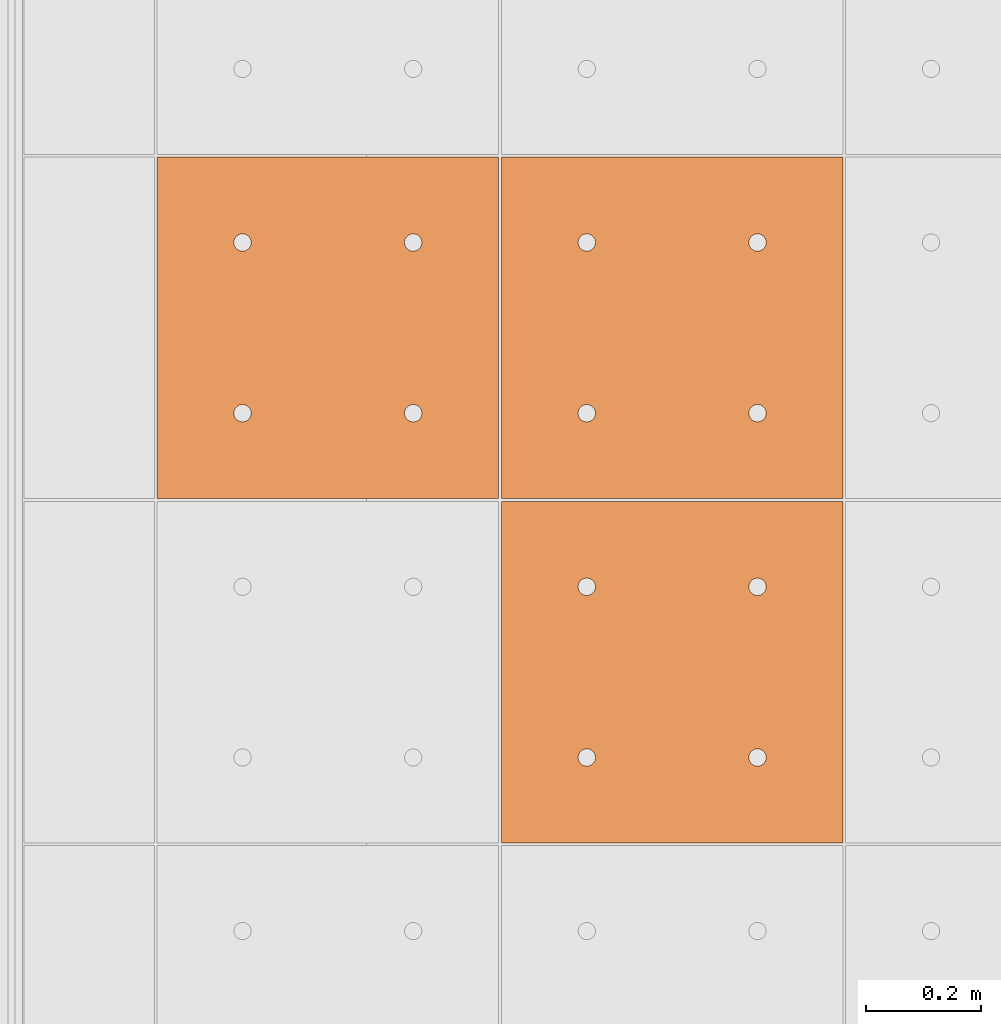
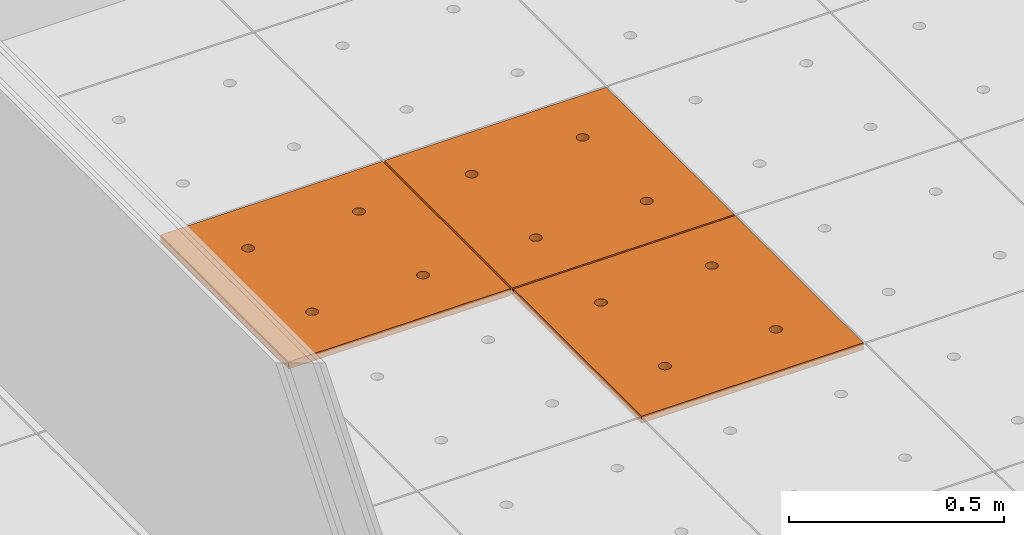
# One storey, part 273 of 338: 3 proxies, 1 element without a shape of its own.
"""IFC2X3 building model written with IfcOpenShell, lengths in millimetres."""

import ifcopenshell
import ifcopenshell.guid

model = None  # the IFC model being written
_history = None  # IfcOwnerHistory: only IFC2X3 demands one
_inside = {}  # id of a spatial element -> (the spatial element, [elements in it])
_under = {}  # id of a project, library or spatial element -> (it, [spatial elements below it])
_declared = {}  # id of a project -> (the project, [libraries it declares])
_typed = {}  # id of a type object -> (the type object, [elements of that type])
_made_of = {}  # id of a material, layer set ... -> (it, [elements and type objects made of it])


def new_model(schema):
    """Start an empty IFC model of exactly this schema.

    Asked for "IFC4X3", IfcOpenShell would pick the latest addendum, in which some entities
    have other attributes; the version numbers below select the first issue.
    IFC2X3 requires an IfcOwnerHistory on every rooted entity: one is made here for all.
    """
    global model, _history
    if schema == "IFC4X3":
        model = ifcopenshell.file(schema_version=(4, 3, 0, 0))
    else:
        model = ifcopenshell.file(schema=schema)
    _inside.clear()
    _under.clear()
    _declared.clear()
    _typed.clear()
    _made_of.clear()
    _history = None
    if model.schema == "IFC2X3":
        org = make("IfcOrganization", Name="unknown")
        user = make(
            "IfcPersonAndOrganization",
            ThePerson=make("IfcPerson", FamilyName="unknown"),
            TheOrganization=org,
        )
        app = make(
            "IfcApplication",
            ApplicationDeveloper=org,
            Version="unknown",
            ApplicationFullName="unknown",
            ApplicationIdentifier="unknown",
        )
        _history = make(
            "IfcOwnerHistory",
            OwningUser=user,
            OwningApplication=app,
            ChangeAction="ADDED",
            CreationDate=0,
        )
    return model


def make(cls, **values):
    """One entity of the class cls with the attributes given. An attribute that is None is left unset."""
    return model.create_entity(
        cls, **{name: value for name, value in values.items() if value is not None}
    )


def entity(cls, *values):
    """Any entity or typed value of the class cls, its attributes in the order of the schema. None: left unset."""
    e = model.create_entity(cls)
    for i, value in enumerate(values):
        if value is not None:
            e[i] = value
    return e


def rooted(cls, **values):
    """An entity with a GlobalId (a new one), such as an element, a storey or a relation."""
    return make(cls, GlobalId=ifcopenshell.guid.new(), OwnerHistory=_history, **values)


def si_unit(unit_type, name, prefix=None):
    """IfcSIUnit, for example si_unit("LENGTHUNIT", "METRE", prefix="MILLI")."""
    return make("IfcSIUnit", UnitType=unit_type, Prefix=prefix, Name=name)


def converted_unit(unit_type, name, factor, base, dimensions=None, offset=None):
    """IfcConversionBasedUnit, such as the inch: factor (a typed value) times the base unit."""
    return make(
        "IfcConversionBasedUnit"
        if offset is None
        else "IfcConversionBasedUnitWithOffset",
        ConversionOffset=offset,
        Dimensions=None
        if dimensions is None
        else entity("IfcDimensionalExponents", *dimensions),
        UnitType=unit_type,
        Name=name,
        ConversionFactor=make(
            "IfcMeasureWithUnit", ValueComponent=factor, UnitComponent=base
        ),
    )


def derived_unit(unit_type, elements):
    """IfcDerivedUnit: a product of units, each with its exponent."""
    return make(
        "IfcDerivedUnit",
        Elements=[
            make("IfcDerivedUnitElement", Unit=unit, Exponent=power)
            for unit, power in elements
        ],
        UnitType=unit_type,
    )


def money_unit(currency):
    """IfcMonetaryUnit."""
    return make("IfcMonetaryUnit", Currency=currency)


def assignment(units):
    """IfcUnitAssignment: the units of a project."""
    return None if units is None else make("IfcUnitAssignment", Units=units)


def point(xyz):
    """IfcCartesianPoint."""
    return None if xyz is None else make("IfcCartesianPoint", Coordinates=xyz)


def direction(xyz):
    """IfcDirection."""
    return None if xyz is None else make("IfcDirection", DirectionRatios=xyz)


def frame(location, z_axis=None, x_axis=None):
    """IfcAxis2Placement3D, a coordinate frame: its origin and axes. An axis left out is left unset."""
    return make(
        "IfcAxis2Placement3D",
        Location=point(location),
        Axis=direction(z_axis),
        RefDirection=direction(x_axis),
    )


def origin_with_axes():
    """The frame at (0, 0, 0) with the z axis (0, 0, 1) and the x axis (1, 0, 0) written out."""
    return frame((0.0, 0.0, 0.0), z_axis=(0.0, 0.0, 1.0), x_axis=(1.0, 0.0, 0.0))


def place(relative_to, where):
    """IfcLocalPlacement: puts the frame where relative to a parent placement (None: the world)."""
    return make(
        "IfcLocalPlacement", PlacementRelTo=relative_to, RelativePlacement=where
    )


def context(
    kind, dimensions, precision=None, world=None, true_north=None, identifier=None
):
    """IfcGeometricRepresentationContext, for example the 3D "Model" context."""
    return make(
        "IfcGeometricRepresentationContext",
        ContextIdentifier=identifier,
        ContextType=kind,
        CoordinateSpaceDimension=dimensions,
        Precision=precision,
        WorldCoordinateSystem=world,
        TrueNorth=true_north,
    )


def subcontext(parent, identifier, kind, view, scale=None):
    """IfcGeometricRepresentationSubContext, for example "Body" below "Model"."""
    return make(
        "IfcGeometricRepresentationSubContext",
        ContextIdentifier=identifier,
        ContextType=kind,
        ParentContext=parent,
        TargetScale=scale,
        TargetView=view,
    )


def project(units=None, contexts=None):
    """IfcProject with its units and contexts."""
    return rooted(
        "IfcProject",
        Name="project",
        RepresentationContexts=contexts,
        UnitsInContext=assignment(units),
    )


def spatial(cls, under=None, at=None, **own):
    """A site, building, storey or space (cls), placed at a placement, below another one or the project."""
    s = rooted(cls, ObjectPlacement=at, **own)
    if under is not None:
        _under.setdefault(under.id(), (under, []))[1].append(s)
    return s


def faces_of(points, faces, orient=None, outer=None):
    """IfcFace entities. A face is a list of loops; a loop is a list of indices into points, from 0.

    orient and outer hold one flag for each loop. By default every Orientation is true, the
    first loop of a face is its IfcFaceOuterBound and the others are IfcFaceBound.
    """
    made = []
    for i, loops in enumerate(faces):
        bounds = []
        for j, loop in enumerate(loops):
            is_outer = j == 0 if outer is None else outer[i][j]
            bounds.append(
                make(
                    "IfcFaceOuterBound" if is_outer else "IfcFaceBound",
                    Bound=make("IfcPolyLoop", Polygon=[points[k] for k in loop]),
                    Orientation=True if orient is None else orient[i][j],
                )
            )
        made.append(make("IfcFace", Bounds=bounds))
    return made


def faceted_brep(points, faces, orient=None, outer=None, voids=None):
    """IfcFacetedBrep: a solid bounded by flat faces; with voids (closed shells), ...WithVoids."""
    shared = [point(p) for p in points]
    hull = make("IfcClosedShell", CfsFaces=faces_of(shared, faces, orient, outer))
    if voids is None:
        return make("IfcFacetedBrep", Outer=hull)
    return make(
        "IfcFacetedBrepWithVoids",
        Outer=hull,
        Voids=[
            make(cls, CfsFaces=faces_of(shared, fs, o, b)) for cls, fs, o, b in voids
        ],
    )


def shape(context_of_items, identifier, shape_type, items):
    """IfcShapeRepresentation: the items that make up one representation, for example the "Body"."""
    return make(
        "IfcShapeRepresentation",
        ContextOfItems=context_of_items,
        RepresentationIdentifier=identifier,
        RepresentationType=shape_type,
        Items=items,
    )


def source(mapping_origin, context_of_items, identifier, shape_type, items):
    """IfcRepresentationMap: a shape defined once, which mapped items show again and again."""
    return make(
        "IfcRepresentationMap",
        MappingOrigin=mapping_origin,
        MappedRepresentation=shape(context_of_items, identifier, shape_type, items),
    )


def transform(
    local_origin,
    x_axis=None,
    y_axis=None,
    z_axis=None,
    scale=None,
    scale2=None,
    scale3=None,
    uniform=True,
):
    """IfcCartesianTransformationOperator3D, or its non-uniform kind. x_axis, y_axis, z_axis: its Axis1, 2, 3."""
    if uniform:
        return make(
            "IfcCartesianTransformationOperator3D",
            Axis1=direction(x_axis),
            Axis2=direction(y_axis),
            LocalOrigin=point(local_origin),
            Scale=scale,
            Axis3=direction(z_axis),
        )
    return make(
        "IfcCartesianTransformationOperator3DnonUniform",
        Axis1=direction(x_axis),
        Axis2=direction(y_axis),
        LocalOrigin=point(local_origin),
        Scale=scale,
        Axis3=direction(z_axis),
        Scale2=scale2,
        Scale3=scale3,
    )


def mapped(mapping_source, mapping_target):
    """IfcMappedItem: shows the shape of a source again, moved by a transform."""
    return make(
        "IfcMappedItem", MappingSource=mapping_source, MappingTarget=mapping_target
    )


def material(Name=None, Category=None):
    """IfcMaterial."""
    return make("IfcMaterial", Name=Name, Category=Category)


def made_of(thing, what):
    """Note that an element or type object is made of a material, layer set ...; save() writes the relation."""
    if what is not None:
        _made_of.setdefault(what.id(), (what, []))[1].append(thing)
    return thing


def type_object(cls, material=None, **own):
    """A type object (cls), such as IfcWallType, which elements share."""
    return made_of(rooted(cls, **own), material)


def type_shapes(of_type, sources):
    """Give a type object the sources (RepresentationMaps) that its elements show as mapped items."""
    of_type.RepresentationMaps = sources


def element(
    cls,
    number,
    at=None,
    inside=None,
    cuts=None,
    type_object=None,
    material=None,
    context=None,
    identifier="Body",
    shape_type=None,
    held_by="IfcProductDefinitionShape",
    body=None,
    shapes=None,
    **own,
):
    """One element of the class cls, such as IfcWall. Its Tag is "e" and its number.

    at: its placement. inside: the storey or other place that contains it. cuts: it is an
    opening in that element (IfcRelVoidsElement). A single representation is given by context,
    identifier, shape_type and body (its items); several are given by shapes. held_by: the class
    of the entity that holds the representations. save() writes the other relations.
    """
    e = rooted(cls, Tag="e%d" % number, ObjectPlacement=at, **own)
    if body is not None:
        shapes = [shape(context, identifier, shape_type, body)]
    if shapes is not None:
        e.Representation = make(held_by, Representations=shapes)
    if inside is not None:
        _inside.setdefault(inside.id(), (inside, []))[1].append(e)
    if cuts is not None:
        rooted(
            "IfcRelVoidsElement", RelatingBuildingElement=cuts, RelatedOpeningElement=e
        )
    if type_object is not None:
        _typed.setdefault(type_object.id(), (type_object, []))[1].append(e)
    return made_of(e, material)


def aggregate(whole, parts):
    """IfcRelAggregates: a whole, such as a stair, and the parts it consists of."""
    return rooted("IfcRelAggregates", RelatingObject=whole, RelatedObjects=parts)


def save(model, path):
    """Write the relations noted so far, then the file.

    IfcRelAggregates (storeys below a building ...), IfcRelContainedInSpatialStructure (elements
    in a storey), IfcRelDefinesByType, IfcRelAssociatesMaterial and IfcRelDeclares: one each for
    every whole, place, type object, material and project.
    """
    for whole, parts in _under.values():
        aggregate(whole, parts)
    for where, things in _inside.values():
        rooted(
            "IfcRelContainedInSpatialStructure",
            RelatedElements=things,
            RelatingStructure=where,
        )
    for kind, things in _typed.values():
        rooted("IfcRelDefinesByType", RelatedObjects=things, RelatingType=kind)
    for what, things in _made_of.values():
        rooted("IfcRelAssociatesMaterial", RelatedObjects=things, RelatingMaterial=what)
    for by, libraries in _declared.values():
        rooted("IfcRelDeclares", RelatingContext=by, RelatedDefinitions=libraries)
    model.write(path)


model = new_model("IFC2X3")

# Units and contexts
model_context = context("Model", 3, precision=0.01, world=origin_with_axes(), true_north=direction((0.0, 1.0)))
plan_context = context("Plan", 3, precision=0.01, world=origin_with_axes(), true_north=direction((0.0, 1.0)))
body_context = subcontext(model_context, "Body", "Model", "MODEL_VIEW")
ifc_project = project(units=[si_unit("LENGTHUNIT", "METRE", prefix="MILLI"), si_unit("AREAUNIT", "SQUARE_METRE"), si_unit("VOLUMEUNIT", "CUBIC_METRE"), converted_unit("PLANEANGLEUNIT", "DEGREE", entity("IfcPlaneAngleMeasure", 0.0174532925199), si_unit("PLANEANGLEUNIT", "RADIAN"), dimensions=[0, 0, 0, 0, 0, 0, 0]), money_unit("EUR"), converted_unit("TIMEUNIT", "Year", entity("IfcTimeMeasure", 31556926.0), si_unit("TIMEUNIT", "SECOND"), dimensions=[0, 0, 1, 0, 0, 0, 0]), si_unit("MASSUNIT", "GRAM", prefix="KILO"), si_unit("THERMODYNAMICTEMPERATUREUNIT", "DEGREE_CELSIUS"), si_unit("LUMINOUSINTENSITYUNIT", "LUMEN"), si_unit("ENERGYUNIT", "JOULE", prefix="MEGA"), derived_unit("THERMALCONDUCTANCEUNIT", [(si_unit("POWERUNIT", "WATT"), 1), (si_unit("LENGTHUNIT", "METRE"), -1), (si_unit("THERMODYNAMICTEMPERATUREUNIT", "KELVIN"), -1)]), derived_unit("SPECIFICHEATCAPACITYUNIT", [(si_unit("ENERGYUNIT", "JOULE"), 1), (si_unit("MASSUNIT", "GRAM", prefix="KILO"), -1), (si_unit("THERMODYNAMICTEMPERATUREUNIT", "KELVIN"), -1)]), derived_unit("MASSDENSITYUNIT", [(si_unit("MASSUNIT", "GRAM", prefix="KILO"), 1), (si_unit("VOLUMEUNIT", "CUBIC_METRE"), -1)])], contexts=[model_context, plan_context])

# Site, building, storey
site_placement = place(None, origin_with_axes())
site = spatial("IfcSite", under=ifc_project, at=site_placement, Name="Fortuinstraat Woensdrecht", CompositionType="ELEMENT")
building_placement = place(site_placement, origin_with_axes())
building = spatial("IfcBuilding", under=site, at=building_placement, Name="IKC Fortuna", CompositionType="ELEMENT")
storey_placement = place(building_placement, origin_with_axes())
storey = spatial("IfcBuildingStorey", under=building, at=storey_placement, Name="00 begane grond", CompositionType="ELEMENT", Elevation=0.0)

# Covering, proxies
covering_type = type_object("IfcCoveringType", Name="Curtain Wall Type", PredefinedType="CEILING")
covering_placement = place(storey_placement, frame((17451.9845996, 24118.5314449, 3210.0), z_axis=(0.0, 0.0, 1.0), x_axis=(1.0, 0.0, 0.0)))
covering = element("IfcCovering", 1, at=covering_placement, inside=storey, type_object=covering_type, Name="45_Plafondafwerking_P01", PredefinedType="CEILING")
ifc_material = material(Name="Gipsplaat")
building_element_proxy_type = type_object("IfcBuildingElementProxyType", Name="Main Panel 600 x 600 x 20", PredefinedType="NOTDEFINED")
shared_shape = source(origin_with_axes(), body_context, "Body", "Brep", [
    faceted_brep([(2.49999999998, 2.49999999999, -10.0), (300.0, 2.49999999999, -10.0), (300.0, 2.49999999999, 10.0), (2.49999999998, 2.49999999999, 10.0), (2.49999999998, 300.0, -10.0), (2.49999999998, 597.5, -10.0), (300.0, 597.5, -10.0), (597.5, 597.5, -10.0), (597.5, 300.0, -10.0), (597.5, 2.49999999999, -10.0), (166.25, 450.06232995, -10.0), (165.79423259, 452.64711538, -10.0), (164.896546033, 455.11348892, -10.0), (163.58421608, 457.38651108, -10.0), (161.897117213, 459.39711721, -10.0), (159.886511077, 461.08421608, -10.0), (157.613488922, 462.39654603, -10.0), (155.147115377, 463.29423259, -10.0), (152.562329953, 463.75, -10.0), (149.937670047, 463.75, -10.0), (147.352884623, 463.29423259, -10.0), (144.886511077, 462.39654603, -10.0), (142.613488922, 461.08421608, -10.0), (140.602882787, 459.39711721, -10.0), (138.91578392, 457.38651108, -10.0), (137.603453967, 455.11348892, -10.0), (136.705767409, 452.64711538, -10.0), (136.25, 450.06232995, -10.0), (136.25, 448.75, -10.0), (136.25, 447.43767005, -10.0), (136.705767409, 444.85288462, -10.0), (137.603453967, 442.38651108, -10.0), (138.91578392, 440.11348892, -10.0), (140.602882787, 438.10288279, -10.0), (142.613488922, 436.41578392, -10.0), (144.886511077, 435.10345397, -10.0), (147.352884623, 434.20576741, -10.0), (149.937670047, 433.75, -10.0), (152.562329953, 433.75, -10.0), (155.147115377, 434.20576741, -10.0), (157.613488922, 435.10345397, -10.0), (159.886511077, 436.41578392, -10.0), (161.897117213, 438.10288279, -10.0), (163.58421608, 440.11348892, -10.0), (164.896546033, 442.38651108, -10.0), (165.79423259, 444.85288462, -10.0), (166.25, 447.43767005, -10.0), (463.75, 450.06232995, -10.0), (463.29423259, 452.64711538, -10.0), (462.396546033, 455.11348892, -10.0), (461.08421608, 457.38651108, -10.0), (459.397117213, 459.39711721, -10.0), (457.386511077, 461.08421608, -10.0), (455.113488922, 462.39654603, -10.0), (452.647115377, 463.29423259, -10.0), (450.062329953, 463.75, -10.0), (447.437670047, 463.75, -10.0), (444.852884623, 463.29423259, -10.0), (442.386511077, 462.39654603, -10.0), (440.113488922, 461.08421608, -10.0), (438.102882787, 459.39711721, -10.0), (436.41578392, 457.38651108, -10.0), (435.103453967, 455.11348892, -10.0), (434.205767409, 452.64711538, -10.0), (433.75, 450.06232995, -10.0), (433.75, 448.75, -10.0), (433.75, 447.43767005, -10.0), (434.205767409, 444.85288462, -10.0), (435.103453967, 442.38651108, -10.0), (436.41578392, 440.11348892, -10.0), (438.102882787, 438.10288279, -10.0), (440.113488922, 436.41578392, -10.0), (442.386511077, 435.10345397, -10.0), (444.852884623, 434.20576741, -10.0), (447.437670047, 433.75, -10.0), (450.062329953, 433.75, -10.0), (452.647115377, 434.20576741, -10.0), (455.113488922, 435.10345397, -10.0), (457.386511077, 436.41578392, -10.0), (459.397117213, 438.10288279, -10.0), (461.08421608, 440.11348892, -10.0), (462.396546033, 442.38651108, -10.0), (463.29423259, 444.85288462, -10.0), (463.75, 447.43767005, -10.0), (463.75, 152.56232995, -10.0), (463.29423259, 155.14711538, -10.0), (462.396546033, 157.61348892, -10.0), (461.08421608, 159.88651108, -10.0), (459.397117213, 161.89711721, -10.0), (457.386511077, 163.58421608, -10.0), (455.113488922, 164.89654603, -10.0), (452.647115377, 165.79423259, -10.0), (450.062329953, 166.25, -10.0), (447.437670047, 166.25, -10.0), (444.852884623, 165.79423259, -10.0), (442.386511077, 164.89654603, -10.0), (440.113488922, 163.58421608, -10.0), (438.102882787, 161.89711721, -10.0), (436.41578392, 159.88651108, -10.0), (435.103453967, 157.61348892, -10.0), (434.205767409, 155.14711538, -10.0), (433.75, 152.56232995, -10.0), (433.75, 151.25, -10.0), (433.75, 149.93767005, -10.0), (434.205767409, 147.35288462, -10.0), (435.103453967, 144.88651108, -10.0), (436.41578392, 142.61348892, -10.0), (438.102882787, 140.60288279, -10.0), (440.113488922, 138.91578392, -10.0), (442.386511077, 137.60345397, -10.0), (444.852884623, 136.70576741, -10.0), (447.437670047, 136.25, -10.0), (450.062329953, 136.25, -10.0), (452.647115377, 136.70576741, -10.0), (455.113488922, 137.60345397, -10.0), (457.386511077, 138.91578392, -10.0), (459.397117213, 140.60288279, -10.0), (461.08421608, 142.61348892, -10.0), (462.396546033, 144.88651108, -10.0), (463.29423259, 147.35288462, -10.0), (463.75, 149.93767005, -10.0), (166.25, 152.56232995, -10.0), (165.79423259, 155.14711538, -10.0), (164.896546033, 157.61348892, -10.0), (163.58421608, 159.88651108, -10.0), (161.897117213, 161.89711721, -10.0), (159.886511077, 163.58421608, -10.0), (157.613488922, 164.89654603, -10.0), (155.147115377, 165.79423259, -10.0), (152.562329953, 166.25, -10.0), (149.937670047, 166.25, -10.0), (147.352884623, 165.79423259, -10.0), (144.886511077, 164.89654603, -10.0), (142.613488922, 163.58421608, -10.0), (140.602882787, 161.89711721, -10.0), (138.91578392, 159.88651108, -10.0), (137.603453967, 157.61348892, -10.0), (136.705767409, 155.14711538, -10.0), (136.25, 152.56232995, -10.0), (136.25, 151.25, -10.0), (136.25, 149.93767005, -10.0), (136.705767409, 147.35288462, -10.0), (137.603453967, 144.88651108, -10.0), (138.91578392, 142.61348892, -10.0), (140.602882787, 140.60288279, -10.0), (142.613488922, 138.91578392, -10.0), (144.886511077, 137.60345397, -10.0), (147.352884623, 136.70576741, -10.0), (149.937670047, 136.25, -10.0), (152.562329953, 136.25, -10.0), (155.147115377, 136.70576741, -10.0), (157.613488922, 137.60345397, -10.0), (159.886511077, 138.91578392, -10.0), (161.897117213, 140.60288279, -10.0), (163.58421608, 142.61348892, -10.0), (164.896546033, 144.88651108, -10.0), (165.79423259, 147.35288462, -10.0), (166.25, 149.93767005, -10.0), (597.5, 2.49999999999, 10.0), (597.5, 300.0, 10.0), (597.5, 597.5, 10.0), (300.0, 597.5, 10.0), (2.49999999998, 597.5, 10.0), (2.49999999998, 300.0, 10.0), (166.25, 450.06232995, 10.0), (166.25, 447.43767005, 10.0), (165.79423259, 444.85288462, 10.0), (164.896546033, 442.38651108, 10.0), (163.58421608, 440.11348892, 10.0), (161.897117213, 438.10288279, 10.0), (159.886511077, 436.41578392, 10.0), (157.613488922, 435.10345397, 10.0), (155.147115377, 434.20576741, 10.0), (152.562329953, 433.75, 10.0), (149.937670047, 433.75, 10.0), (147.352884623, 434.20576741, 10.0), (144.886511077, 435.10345397, 10.0), (142.613488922, 436.41578392, 10.0), (140.602882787, 438.10288279, 10.0), (138.91578392, 440.11348892, 10.0), (137.603453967, 442.38651108, 10.0), (136.705767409, 444.85288462, 10.0), (136.25, 447.43767005, 10.0), (136.25, 448.75, 10.0), (136.25, 450.06232995, 10.0), (136.705767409, 452.64711538, 10.0), (137.603453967, 455.11348892, 10.0), (138.91578392, 457.38651108, 10.0), (140.602882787, 459.39711721, 10.0), (142.613488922, 461.08421608, 10.0), (144.886511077, 462.39654603, 10.0), (147.352884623, 463.29423259, 10.0), (149.937670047, 463.75, 10.0), (152.562329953, 463.75, 10.0), (155.147115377, 463.29423259, 10.0), (157.613488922, 462.39654603, 10.0), (159.886511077, 461.08421608, 10.0), (161.897117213, 459.39711721, 10.0), (163.58421608, 457.38651108, 10.0), (164.896546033, 455.11348892, 10.0), (165.79423259, 452.64711538, 10.0), (463.75, 450.06232995, 10.0), (463.75, 447.43767005, 10.0), (463.29423259, 444.85288462, 10.0), (462.396546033, 442.38651108, 10.0), (461.08421608, 440.11348892, 10.0), (459.397117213, 438.10288279, 10.0), (457.386511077, 436.41578392, 10.0), (455.113488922, 435.10345397, 10.0), (452.647115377, 434.20576741, 10.0), (450.062329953, 433.75, 10.0), (447.437670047, 433.75, 10.0), (444.852884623, 434.20576741, 10.0), (442.386511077, 435.10345397, 10.0), (440.113488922, 436.41578392, 10.0), (438.102882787, 438.10288279, 10.0), (436.41578392, 440.11348892, 10.0), (435.103453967, 442.38651108, 10.0), (434.205767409, 444.85288462, 10.0), (433.75, 447.43767005, 10.0), (433.75, 448.75, 10.0), (433.75, 450.06232995, 10.0), (434.205767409, 452.64711538, 10.0), (435.103453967, 455.11348892, 10.0), (436.41578392, 457.38651108, 10.0), (438.102882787, 459.39711721, 10.0), (440.113488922, 461.08421608, 10.0), (442.386511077, 462.39654603, 10.0), (444.852884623, 463.29423259, 10.0), (447.437670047, 463.75, 10.0), (450.062329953, 463.75, 10.0), (452.647115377, 463.29423259, 10.0), (455.113488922, 462.39654603, 10.0), (457.386511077, 461.08421608, 10.0), (459.397117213, 459.39711721, 10.0), (461.08421608, 457.38651108, 10.0), (462.396546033, 455.11348892, 10.0), (463.29423259, 452.64711538, 10.0), (463.75, 152.56232995, 10.0), (463.75, 149.93767005, 10.0), (463.29423259, 147.35288462, 10.0), (462.396546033, 144.88651108, 10.0), (461.08421608, 142.61348892, 10.0), (459.397117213, 140.60288279, 10.0), (457.386511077, 138.91578392, 10.0), (455.113488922, 137.60345397, 10.0), (452.647115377, 136.70576741, 10.0), (450.062329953, 136.25, 10.0), (447.437670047, 136.25, 10.0), (444.852884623, 136.70576741, 10.0), (442.386511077, 137.60345397, 10.0), (440.113488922, 138.91578392, 10.0), (438.102882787, 140.60288279, 10.0), (436.41578392, 142.61348892, 10.0), (435.103453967, 144.88651108, 10.0), (434.205767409, 147.35288462, 10.0), (433.75, 149.93767005, 10.0), (433.75, 151.25, 10.0), (433.75, 152.56232995, 10.0), (434.205767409, 155.14711538, 10.0), (435.103453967, 157.61348892, 10.0), (436.41578392, 159.88651108, 10.0), (438.102882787, 161.89711721, 10.0), (440.113488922, 163.58421608, 10.0), (442.386511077, 164.89654603, 10.0), (444.852884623, 165.79423259, 10.0), (447.437670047, 166.25, 10.0), (450.062329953, 166.25, 10.0), (452.647115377, 165.79423259, 10.0), (455.113488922, 164.89654603, 10.0), (457.386511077, 163.58421608, 10.0), (459.397117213, 161.89711721, 10.0), (461.08421608, 159.88651108, 10.0), (462.396546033, 157.61348892, 10.0), (463.29423259, 155.14711538, 10.0), (166.25, 152.56232995, 10.0), (166.25, 149.93767005, 10.0), (165.79423259, 147.35288462, 10.0), (164.896546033, 144.88651108, 10.0), (163.58421608, 142.61348892, 10.0), (161.897117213, 140.60288279, 10.0), (159.886511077, 138.91578392, 10.0), (157.613488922, 137.60345397, 10.0), (155.147115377, 136.70576741, 10.0), (152.562329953, 136.25, 10.0), (149.937670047, 136.25, 10.0), (147.352884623, 136.70576741, 10.0), (144.886511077, 137.60345397, 10.0), (142.613488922, 138.91578392, 10.0), (140.602882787, 140.60288279, 10.0), (138.91578392, 142.61348892, 10.0), (137.603453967, 144.88651108, 10.0), (136.705767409, 147.35288462, 10.0), (136.25, 149.93767005, 10.0), (136.25, 151.25, 10.0), (136.25, 152.56232995, 10.0), (136.705767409, 155.14711538, 10.0), (137.603453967, 157.61348892, 10.0), (138.91578392, 159.88651108, 10.0), (140.602882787, 161.89711721, 10.0), (142.613488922, 163.58421608, 10.0), (144.886511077, 164.89654603, 10.0), (147.352884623, 165.79423259, 10.0), (149.937670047, 166.25, 10.0), (152.562329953, 166.25, 10.0), (155.147115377, 165.79423259, 10.0), (157.613488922, 164.89654603, 10.0), (159.886511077, 163.58421608, 10.0), (161.897117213, 161.89711721, 10.0), (163.58421608, 159.88651108, 10.0), (164.896546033, 157.61348892, 10.0), (165.79423259, 155.14711538, 10.0)], [[[0, 1, 2, 3]], [[0, 4, 5, 6, 7, 8, 9, 1], [10, 11, 12, 13, 14, 15, 16, 17, 18, 19, 20, 21, 22, 23, 24, 25, 26, 27, 28, 29, 30, 31, 32, 33, 34, 35, 36, 37, 38, 39, 40, 41, 42, 43, 44, 45, 46], [47, 48, 49, 50, 51, 52, 53, 54, 55, 56, 57, 58, 59, 60, 61, 62, 63, 64, 65, 66, 67, 68, 69, 70, 71, 72, 73, 74, 75, 76, 77, 78, 79, 80, 81, 82, 83], [84, 85, 86, 87, 88, 89, 90, 91, 92, 93, 94, 95, 96, 97, 98, 99, 100, 101, 102, 103, 104, 105, 106, 107, 108, 109, 110, 111, 112, 113, 114, 115, 116, 117, 118, 119, 120], [121, 122, 123, 124, 125, 126, 127, 128, 129, 130, 131, 132, 133, 134, 135, 136, 137, 138, 139, 140, 141, 142, 143, 144, 145, 146, 147, 148, 149, 150, 151, 152, 153, 154, 155, 156, 157]], [[1, 9, 158, 2]], [[3, 2, 158, 159, 160, 161, 162, 163], [164, 165, 166, 167, 168, 169, 170, 171, 172, 173, 174, 175, 176, 177, 178, 179, 180, 181, 182, 183, 184, 185, 186, 187, 188, 189, 190, 191, 192, 193, 194, 195, 196, 197, 198, 199, 200], [201, 202, 203, 204, 205, 206, 207, 208, 209, 210, 211, 212, 213, 214, 215, 216, 217, 218, 219, 220, 221, 222, 223, 224, 225, 226, 227, 228, 229, 230, 231, 232, 233, 234, 235, 236, 237], [238, 239, 240, 241, 242, 243, 244, 245, 246, 247, 248, 249, 250, 251, 252, 253, 254, 255, 256, 257, 258, 259, 260, 261, 262, 263, 264, 265, 266, 267, 268, 269, 270, 271, 272, 273, 274], [275, 276, 277, 278, 279, 280, 281, 282, 283, 284, 285, 286, 287, 288, 289, 290, 291, 292, 293, 294, 295, 296, 297, 298, 299, 300, 301, 302, 303, 304, 305, 306, 307, 308, 309, 310, 311]], [[4, 0, 3, 163]], [[5, 4, 163, 162]], [[6, 5, 162, 161]], [[7, 6, 161, 160]], [[8, 7, 160, 159]], [[9, 8, 159, 158]], [[11, 10, 164, 200]], [[12, 11, 200, 199]], [[13, 12, 199, 198]], [[14, 13, 198, 197]], [[15, 14, 197, 196]], [[16, 15, 196, 195]], [[17, 16, 195, 194]], [[18, 17, 194, 193]], [[19, 18, 193, 192]], [[20, 19, 192, 191]], [[21, 20, 191, 190]], [[22, 21, 190, 189]], [[23, 22, 189, 188]], [[24, 23, 188, 187]], [[25, 24, 187, 186]], [[26, 25, 186, 185]], [[27, 26, 185, 184]], [[28, 27, 184, 183]], [[29, 28, 183, 182]], [[30, 29, 182, 181]], [[31, 30, 181, 180]], [[32, 31, 180, 179]], [[33, 32, 179, 178]], [[34, 33, 178, 177]], [[35, 34, 177, 176]], [[36, 35, 176, 175]], [[37, 36, 175, 174]], [[38, 37, 174, 173]], [[39, 38, 173, 172]], [[40, 39, 172, 171]], [[41, 40, 171, 170]], [[42, 41, 170, 169]], [[43, 42, 169, 168]], [[44, 43, 168, 167]], [[45, 44, 167, 166]], [[46, 45, 166, 165]], [[10, 46, 165, 164]], [[48, 47, 201, 237]], [[49, 48, 237, 236]], [[50, 49, 236, 235]], [[51, 50, 235, 234]], [[52, 51, 234, 233]], [[53, 52, 233, 232]], [[54, 53, 232, 231]], [[55, 54, 231, 230]], [[56, 55, 230, 229]], [[57, 56, 229, 228]], [[58, 57, 228, 227]], [[59, 58, 227, 226]], [[60, 59, 226, 225]], [[61, 60, 225, 224]], [[62, 61, 224, 223]], [[63, 62, 223, 222]], [[64, 63, 222, 221]], [[65, 64, 221, 220]], [[66, 65, 220, 219]], [[67, 66, 219, 218]], [[68, 67, 218, 217]], [[69, 68, 217, 216]], [[70, 69, 216, 215]], [[71, 70, 215, 214]], [[72, 71, 214, 213]], [[73, 72, 213, 212]], [[74, 73, 212, 211]], [[75, 74, 211, 210]], [[76, 75, 210, 209]], [[77, 76, 209, 208]], [[78, 77, 208, 207]], [[79, 78, 207, 206]], [[80, 79, 206, 205]], [[81, 80, 205, 204]], [[82, 81, 204, 203]], [[83, 82, 203, 202]], [[47, 83, 202, 201]], [[85, 84, 238, 274]], [[86, 85, 274, 273]], [[87, 86, 273, 272]], [[88, 87, 272, 271]], [[89, 88, 271, 270]], [[90, 89, 270, 269]], [[91, 90, 269, 268]], [[92, 91, 268, 267]], [[93, 92, 267, 266]], [[94, 93, 266, 265]], [[95, 94, 265, 264]], [[96, 95, 264, 263]], [[97, 96, 263, 262]], [[98, 97, 262, 261]], [[99, 98, 261, 260]], [[100, 99, 260, 259]], [[101, 100, 259, 258]], [[102, 101, 258, 257]], [[103, 102, 257, 256]], [[104, 103, 256, 255]], [[105, 104, 255, 254]], [[106, 105, 254, 253]], [[107, 106, 253, 252]], [[108, 107, 252, 251]], [[109, 108, 251, 250]], [[110, 109, 250, 249]], [[111, 110, 249, 248]], [[112, 111, 248, 247]], [[113, 112, 247, 246]], [[114, 113, 246, 245]], [[115, 114, 245, 244]], [[116, 115, 244, 243]], [[117, 116, 243, 242]], [[118, 117, 242, 241]], [[119, 118, 241, 240]], [[120, 119, 240, 239]], [[84, 120, 239, 238]], [[122, 121, 275, 311]], [[123, 122, 311, 310]], [[124, 123, 310, 309]], [[125, 124, 309, 308]], [[126, 125, 308, 307]], [[127, 126, 307, 306]], [[128, 127, 306, 305]], [[129, 128, 305, 304]], [[130, 129, 304, 303]], [[131, 130, 303, 302]], [[132, 131, 302, 301]], [[133, 132, 301, 300]], [[134, 133, 300, 299]], [[135, 134, 299, 298]], [[136, 135, 298, 297]], [[137, 136, 297, 296]], [[138, 137, 296, 295]], [[139, 138, 295, 294]], [[140, 139, 294, 293]], [[141, 140, 293, 292]], [[142, 141, 292, 291]], [[143, 142, 291, 290]], [[144, 143, 290, 289]], [[145, 144, 289, 288]], [[146, 145, 288, 287]], [[147, 146, 287, 286]], [[148, 147, 286, 285]], [[149, 148, 285, 284]], [[150, 149, 284, 283]], [[151, 150, 283, 282]], [[152, 151, 282, 281]], [[153, 152, 281, 280]], [[154, 153, 280, 279]], [[155, 154, 279, 278]], [[156, 155, 278, 277]], [[157, 156, 277, 276]], [[121, 157, 276, 275]]]),
])
type_shapes(building_element_proxy_type, [shared_shape])
proxy_1_placement = place(covering_placement, frame((600.0, 1200.0, 0.0), z_axis=(0.0, 0.0, 1.0), x_axis=(1.0, 0.0, 0.0)))
proxy_1 = element("IfcBuildingElementProxy", 2, at=proxy_1_placement, type_object=building_element_proxy_type, material=ifc_material, Name="__600x605 Rockfon Krios", context=body_context, shape_type="MappedRepresentation", body=[
    mapped(shared_shape, transform((300.0, 300.0, 0.0), x_axis=(-1.0, 0.0, 0.0), y_axis=(0.0, -1.0, 0.0), z_axis=(0.0, 0.0, 1.0))),
])
proxy_2_placement = place(covering_placement, frame((0.0, 1200.0, 0.0), z_axis=(0.0, 0.0, 1.0), x_axis=(1.0, 0.0, 0.0)))
proxy_2 = element("IfcBuildingElementProxy", 3, at=proxy_2_placement, type_object=building_element_proxy_type, material=ifc_material, Name="__600x607 Rockfon Krios", context=body_context, shape_type="MappedRepresentation", body=[
    mapped(shared_shape, transform((300.0, 300.0, 0.0), x_axis=(-1.0, 0.0, 0.0), y_axis=(0.0, -1.0, 0.0), z_axis=(0.0, 0.0, 1.0))),
])
proxy_3_placement = place(covering_placement, frame((600.0, 600.0, 0.0), z_axis=(0.0, 0.0, 1.0), x_axis=(1.0, 0.0, 0.0)))
proxy_3 = element("IfcBuildingElementProxy", 4, at=proxy_3_placement, type_object=building_element_proxy_type, material=ifc_material, Name="__600x611 Rockfon Krios", context=body_context, shape_type="MappedRepresentation", body=[
    mapped(shared_shape, transform((300.0, 300.0, 0.0), x_axis=(-1.0, 0.0, 0.0), y_axis=(0.0, -1.0, 0.0), z_axis=(0.0, 0.0, 1.0))),
])
aggregate(covering, [proxy_1, proxy_2, proxy_3])

save(model, "model.ifc")
